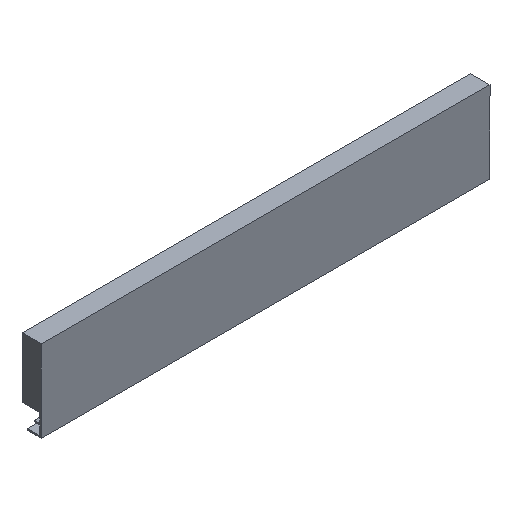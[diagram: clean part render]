
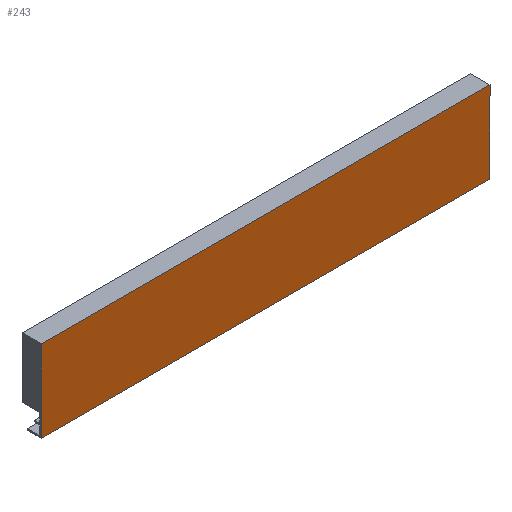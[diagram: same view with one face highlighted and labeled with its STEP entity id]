
A CAD part, isometric view. The second image highlights one B-rep face of the part: STEP entity #243.
In plain terms, the highlighted planar face has unit normal (0, -1, 0).
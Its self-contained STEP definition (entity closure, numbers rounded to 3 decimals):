
#5 = VECTOR ( 'NONE', #441, 1000. ) ;
#6 = LINE ( 'NONE', #440, #5 ) ;
#9 = LINE ( 'NONE', #442, #150 ) ;
#34 = FACE_OUTER_BOUND ( 'NONE', #130, .T. ) ;
#121 = ORIENTED_EDGE ( 'NONE', *, *, #289, .F. ) ;
#122 = ORIENTED_EDGE ( 'NONE', *, *, #306, .T. ) ;
#130 = EDGE_LOOP ( 'NONE', ( #122, #121, #140, #141 ) ) ;
#140 = ORIENTED_EDGE ( 'NONE', *, *, #268, .F. ) ;
#141 = ORIENTED_EDGE ( 'NONE', *, *, #265, .T. ) ;
#150 = VECTOR ( 'NONE', #448, 1000. ) ;
#152 = LINE ( 'NONE', #457, #163 ) ;
#163 = VECTOR ( 'NONE', #463, 1000. ) ;
#166 = LINE ( 'NONE', #474, #180 ) ;
#180 = VECTOR ( 'NONE', #482, 1000. ) ;
#228 = VERTEX_POINT ( 'NONE', #356 ) ;
#229 = VERTEX_POINT ( 'NONE', #357 ) ;
#232 = VERTEX_POINT ( 'NONE', #358 ) ;
#243 = ADVANCED_FACE ( 'NONE', ( #34 ), #377, .F. ) ;
#265 = EDGE_CURVE ( 'NONE', #338, #229, #6, .T. ) ;
#268 = EDGE_CURVE ( 'NONE', #338, #232, #9, .T. ) ;
#284 = AXIS2_PLACEMENT_3D ( 'NONE', #380, #386, #387 ) ;
#289 = EDGE_CURVE ( 'NONE', #232, #228, #152, .T. ) ;
#306 = EDGE_CURVE ( 'NONE', #229, #228, #166, .T. ) ;
#338 = VERTEX_POINT ( 'NONE', #519 ) ;
#356 = CARTESIAN_POINT ( 'NONE',  ( 185.5, -5.5, 49.7 ) ) ;
#357 = CARTESIAN_POINT ( 'NONE',  ( 185.5, -5.5, -17.9 ) ) ;
#358 = CARTESIAN_POINT ( 'NONE',  ( -185.5, -5.5, 49.7 ) ) ;
#377 = PLANE ( 'NONE',  #284 ) ;
#380 = CARTESIAN_POINT ( 'NONE',  ( -185.5, -5.5, -17.9 ) ) ;
#386 = DIRECTION ( 'NONE',  ( 0., 1., 0. ) ) ;
#387 = DIRECTION ( 'NONE',  ( 0., 0., -1. ) ) ;
#440 = CARTESIAN_POINT ( 'NONE',  ( -185.5, -5.5, -17.9 ) ) ;
#441 = DIRECTION ( 'NONE',  ( 1., 0., 0. ) ) ;
#442 = CARTESIAN_POINT ( 'NONE',  ( -185.5, -5.5, -17.9 ) ) ;
#448 = DIRECTION ( 'NONE',  ( 0., 0., 1. ) ) ;
#457 = CARTESIAN_POINT ( 'NONE',  ( -185.5, -5.5, 49.7 ) ) ;
#463 = DIRECTION ( 'NONE',  ( 1., 0., 0. ) ) ;
#474 = CARTESIAN_POINT ( 'NONE',  ( 185.5, -5.5, -17.9 ) ) ;
#482 = DIRECTION ( 'NONE',  ( 0., 0., 1. ) ) ;
#519 = CARTESIAN_POINT ( 'NONE',  ( -185.5, -5.5, -17.9 ) ) ;
